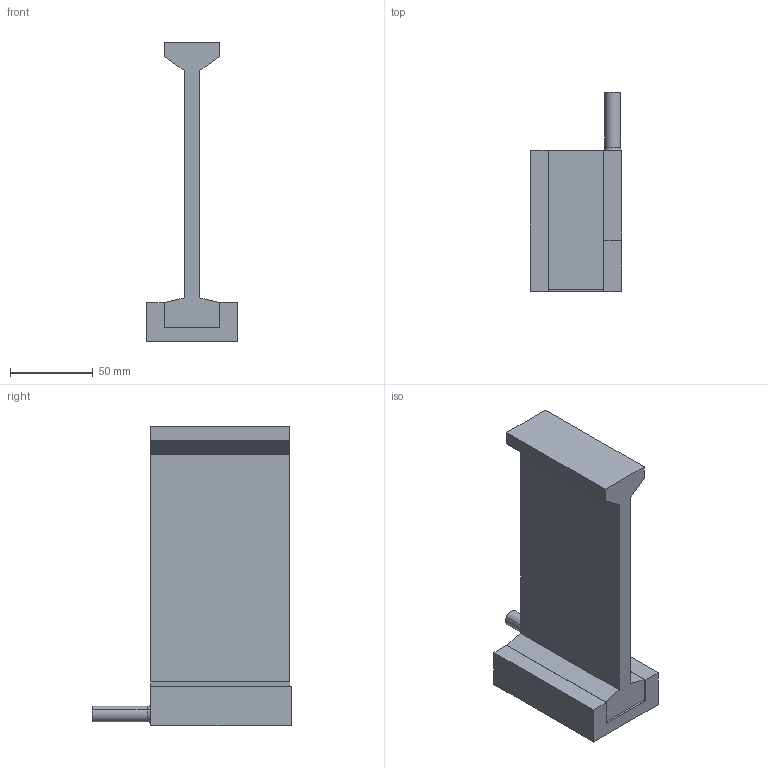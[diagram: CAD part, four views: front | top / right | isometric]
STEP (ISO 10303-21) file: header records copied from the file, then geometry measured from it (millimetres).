
FILE_DESCRIPTION (( 'STEP AP214' ), '1' );
FILE_NAME ('DX140F-C1-NH.STEP', '2021-07-16T04:15:16', ( '' ), ( '' ), 'SwSTEP 2.0', 'SolidWorks 2020', '' );
FILE_SCHEMA (( 'AUTOMOTIVE_DESIGN' ));
Length unit declared in the file: millimetre
Products named in the file (6): HEX SHCS M3x0.5x12(S.S)_B18.3.1M - 3 x 0.5 x 12 Hex SHCS -- 12CHX; TIM-PC 8850FT-LV (DX140F)_C1; CBL_PWR_D10; DX140F-C1-NH; DX140FNH01; DX140FCX01_C1 CUSTOMER
Assembly tree (6 placements, depth 2):
  DX140F-C1-NH
    TIM-PC 8850FT-LV (DX140F)_C1
    DX140FCX01_C1 CUSTOMER
    DX140FNH01
    HEX SHCS M3x0.5x12(S.S)_B18.3.1M - 3 x 0.5 x 12 Hex SHCS -- 12CHX  x2
    CBL_PWR_D10
Bounding box: 55 x 120 x 180.6 mm (x, y, z)
Volume: 262440 mm3; surface area: 65209.9 mm2
Topology: 6 solids, 6 shells, 138 faces, 317 edges, 190 vertices
Faces by surface type: plane 76, cylinder 34, cone 22, torus 6
Entity records: 3443 total; most frequent: DIRECTION 563, CARTESIAN_POINT 524, ORIENTED_EDGE 494, EDGE_CURVE 247, AXIS2_PLACEMENT_3D 196, VECTOR 171, LINE 171, VERTEX_POINT 157
